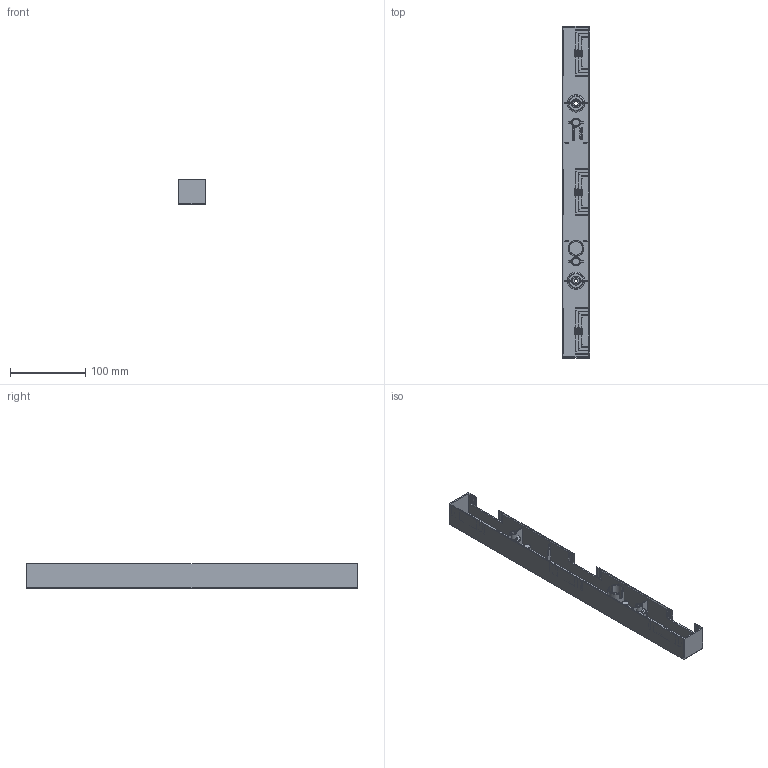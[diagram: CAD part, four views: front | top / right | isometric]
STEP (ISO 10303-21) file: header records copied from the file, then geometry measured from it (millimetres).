
FILE_DESCRIPTION (( 'STEP AP214' ), '1' );
FILE_NAME ('53008.STEP', '2021-08-11T05:49:20', ( '' ), ( '' ), 'SwSTEP 2.0', 'SolidWorks 2017', '' );
FILE_SCHEMA (( 'AUTOMOTIVE_DESIGN' ));
Length unit declared in the file: millimetre
Products named in the file (2): 53008
Bounding box: 37 x 442 x 33.2 mm (x, y, z)
Volume: 94353.5 mm3; surface area: 102291.9 mm2
Topology: 1 solids, 1 shells, 1246 faces, 3300 edges, 2177 vertices
Faces by surface type: plane 932, bspline 276, cylinder 26, torus 10, cone 2
Full cylindrical faces by diameter (mm): 4.8 x1, 5.3 x2, 5.5 x1, 10 x2, 16 x2, 18 x1, 21 x1
Entity records: 57927 total; most frequent: CARTESIAN_POINT 29014, ORIENTED_EDGE 6504, DIRECTION 4695, EDGE_CURVE 3252, LINE 2597, VECTOR 2597, VERTEX_POINT 2172, EDGE_LOOP 1414
